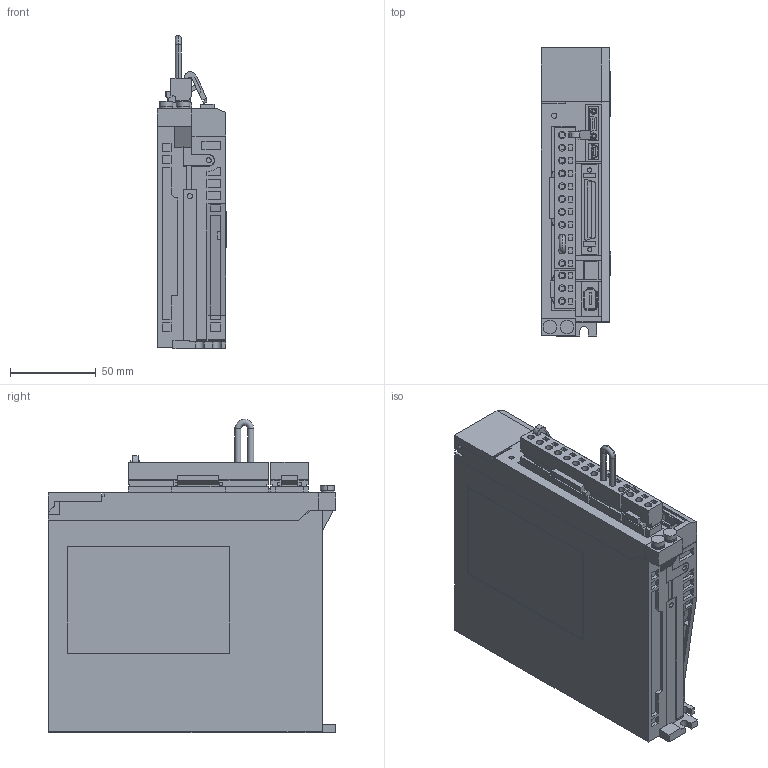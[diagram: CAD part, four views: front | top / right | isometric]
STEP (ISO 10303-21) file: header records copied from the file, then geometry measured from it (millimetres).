
FILE_DESCRIPTION (( 'STEP AP203' ), '1' );
FILE_NAME ('sgdxs_r90a00a.STEP', '2021-02-19T01:23:51', ( 'YMANOUCHI' ), ( 'TAKUMI-Engniaring' ), 'SwSTEP 2.0', 'SolidWorks 2005204', '' );
FILE_SCHEMA (( 'CONFIG_CONTROL_DESIGN' ));
Products named in the file (11): sgdxs_r90a00a_base; sgdxs_r90a00a_connector1; sgdxs_r90a00a_cover; sgdxs_r90a00a; sgdxs_r90a00a_connector; sgdxs_r90a00a_connector2; sgdxs_r90a00a_pin; sgdxs_r90a00a_cable; sgdxs_r90a00a_cover2; sgdxs_r90a00a_connector3; sgdxs_r90a00a_cover3
Assembly tree (10 placements, depth 3):
  sgdxs_r90a00a
    sgdxs_r90a00a_base
    sgdxs_r90a00a_connector
      sgdxs_r90a00a_cable
      sgdxs_r90a00a_pin
      sgdxs_r90a00a_connector2
    sgdxs_r90a00a_cover
    sgdxs_r90a00a_cover3
    sgdxs_r90a00a_connector3
    sgdxs_r90a00a_cover2
    sgdxs_r90a00a_connector1
Bounding box: 40.5 x 168 x 183 mm (x, y, z)
Volume: 828527.4 mm3; surface area: 131082.5 mm2
Topology: 9 solids, 9 shells, 1631 faces, 4263 edges, 2813 vertices
Faces by surface type: plane 1412, cylinder 213, cone 4, torus 2
Entity records: 50544 total; most frequent: CARTESIAN_POINT 8721, ORIENTED_EDGE 8526, DIRECTION 7991, EDGE_CURVE 4263, LINE 3825, VECTOR 3825, VERTEX_POINT 2813, AXIS2_PLACEMENT_3D 2083
